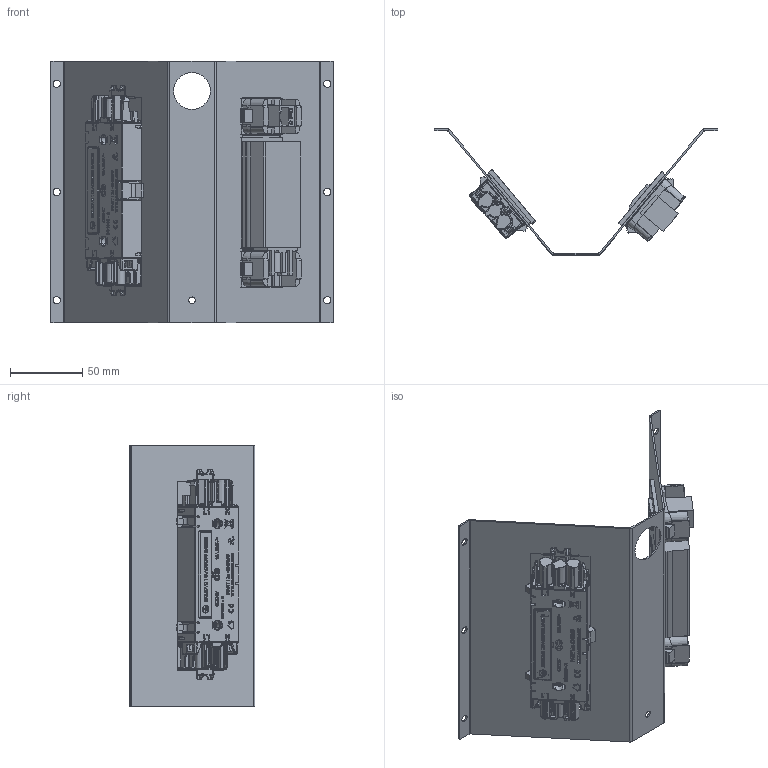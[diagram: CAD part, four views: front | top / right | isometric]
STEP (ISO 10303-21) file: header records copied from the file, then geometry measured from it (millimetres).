
FILE_DESCRIPTION((''),'2;1');
FILE_NAME('P:\Manufacturing\Autocad drawings\Inventor\blocks\PMPY - blocks\PMPY 1052 block.stp','2021-08-06T09:02:17',('ScottReyner'),(''),'Autodesk Inventor 2012','Autodesk Inventor 2012','');
FILE_SCHEMA(('AUTOMOTIVE_DESIGN { 1 0 10303 214 1 1 1 1 }'));
Length unit declared in the file: millimetre
Products named in the file (6): PMPY 1052 block; Undercarriage 25; QikFit-UK-2G; QikFit-TUF-1G; QF5 - Blank; QF5 - Data Coupler
Assembly tree (5 placements, depth 2):
  PMPY 1052 block
    Undercarriage 25
    QikFit-UK-2G
    QikFit-TUF-1G
    QF5 - Blank
    QF5 - Data Coupler
Bounding box: 196.5 x 87.3 x 181 mm (x, y, z)
Volume: 261449.2 mm3; surface area: 139191.7 mm2
Topology: 5 solids, 31 shells, 5999 faces, 15401 edges, 9506 vertices
Faces by surface type: plane 2816, cylinder 1381, bspline 1358, sphere 232, torus 113, cone 99
Full cylindrical faces by diameter (mm): 0.445 x1, 0.766 x1, 3.1 x2, 4.5 x1, 5 x8, 5.4 x2, 5.5 x2, 25.5 x1
Entity records: 221483 total; most frequent: CARTESIAN_POINT 83179, ORIENTED_EDGE 30372, DIRECTION 26224, EDGE_CURVE 15186, VERTEX_POINT 9494, VECTOR 9292, LINE 9292, AXIS2_PLACEMENT_3D 8466
